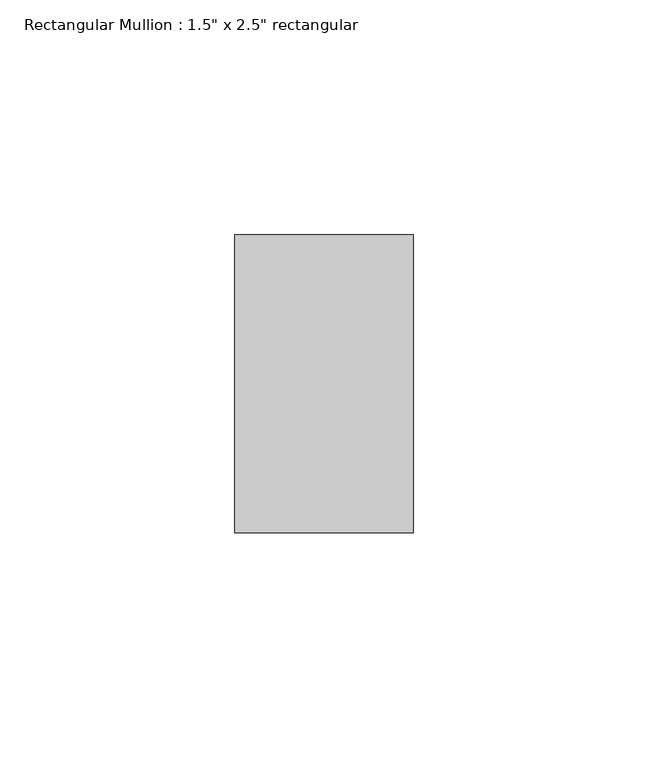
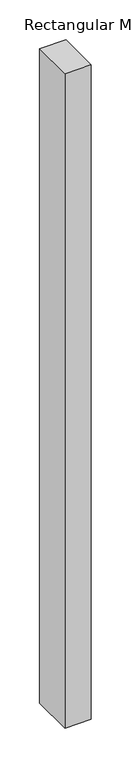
"""IFC4 building model written with IfcOpenShell, lengths in millimetres: member geometry."""

from ifc_helpers import new_model, si_unit, frame, origin, place, context, project, spatial, polyline, outline, extrude, source, transform, mapped, element, save


def member_e6b937b8(model_context):
    return source(origin(), model_context, "Body", "SweptSolid", [
        extrude(outline(polyline([(19.05, 31.75), (19.05, -31.75), (-19.05, -31.75), (-19.05, 31.75), (19.05, 31.75)])), frame((0.0, 0.0, -1003.3), z_axis=(0.0, 0.0, 1.0), x_axis=(1.0, 0.0, 0.0)), (0.0, 0.0, 1.0), 1003.3),
    ])


if __name__ == "__main__":
    model = new_model("IFC4")
    model_context = context("Model", 3, world=origin())
    ifc_project = project(units=[si_unit("LENGTHUNIT", "METRE", prefix="MILLI")], contexts=[model_context])
    site = spatial("IfcSite", under=ifc_project)
    building = spatial("IfcBuilding", under=site)
    placement = place(None, origin())
    member_shape = member_e6b937b8(model_context)
    element("IfcMember", 1, ObjectType="Rectangular Mullion : 1.5\" x 2.5\" rectangular", at=placement, inside=building, context=model_context, shape_type="MappedRepresentation", body=[
        mapped(member_shape, transform((0.0, 0.0, 0.0), x_axis=(1.0, 0.0, 0.0), y_axis=(0.0, 1.0, 0.0), z_axis=(0.0, 0.0, 1.0))),
    ])
    save(model, "model.ifc")
